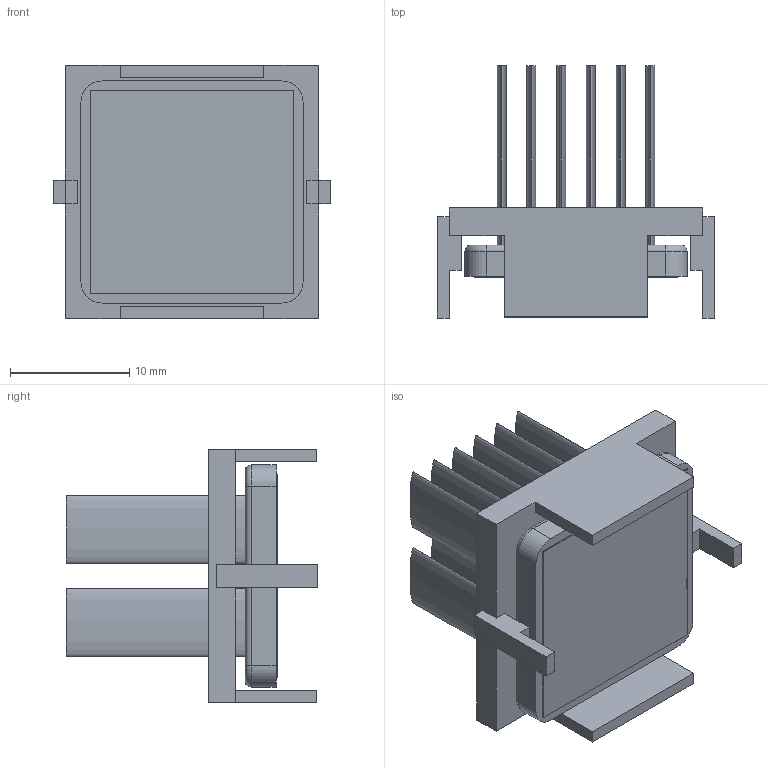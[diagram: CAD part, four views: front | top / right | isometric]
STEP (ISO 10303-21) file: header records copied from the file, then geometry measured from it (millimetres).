
FILE_DESCRIPTION (( 'STEP AP214' ), '1' );
FILE_NAME ('INM19001-18W-2.6Y.STEP', '2023-03-02T18:17:28', ( '' ), ( '' ), 'SwSTEP 2.0', 'SolidWorks 2020', '' );
FILE_SCHEMA (( 'AUTOMOTIVE_DESIGN' ));
Length unit declared in the file: millimetre
Products named in the file (1): INM19001-18W-2.6Y
Bounding box: 23.2 x 21.1 x 21.2 mm (x, y, z)
Volume: 2365.7 mm3; surface area: 4907.6 mm2
Topology: 3 solids, 3 shells, 106 faces, 256 edges, 168 vertices
Faces by surface type: plane 70, bspline 24, cylinder 8, torus 4
Entity records: 4330 total; most frequent: CARTESIAN_POINT 843, ORIENTED_EDGE 512, DIRECTION 394, EDGE_CURVE 256, VECTOR 188, LINE 188, VERTEX_POINT 168, EDGE_LOOP 120
